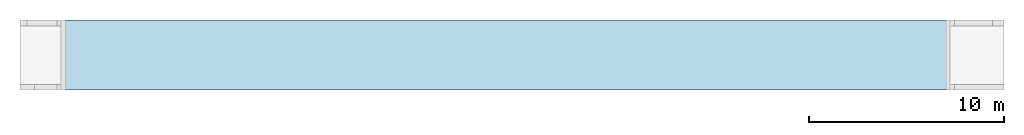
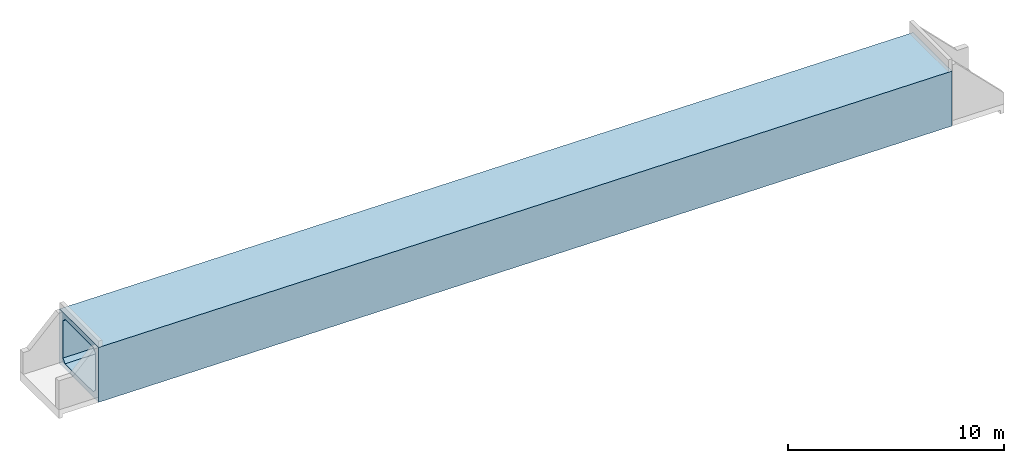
# One storey, part 2 of 2: 1 slab.
"""IFC2X3 building model written with IfcOpenShell, lengths in metres."""

from ifc_helpers import new_model, entity, si_unit, converted_unit, derived_unit, direction, frame, origin, place, context, subcontext, project, spatial, faceted_brep, material, type_object, element, save


model = new_model("IFC2X3")

# Units and contexts
model_context = context("Model", 3, precision=1e-05, world=origin(), true_north=direction((6.12303176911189e-17, 1.0)))
body_context = subcontext(model_context, "Body", "Model", "MODEL_VIEW")
ifc_project = project(units=[si_unit("LENGTHUNIT", "METRE"), si_unit("AREAUNIT", "SQUARE_METRE"), si_unit("VOLUMEUNIT", "CUBIC_METRE"), converted_unit("PLANEANGLEUNIT", "DEGREE", entity("IfcRatioMeasure", 0.0174532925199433), si_unit("PLANEANGLEUNIT", "RADIAN"), dimensions=[0, 0, 0, 0, 0, 0, 0]), si_unit("MASSUNIT", "GRAM", prefix="KILO"), derived_unit("MASSDENSITYUNIT", [(si_unit("MASSUNIT", "GRAM", prefix="KILO"), 1), (si_unit("LENGTHUNIT", "METRE"), -3)]), derived_unit("MOMENTOFINERTIAUNIT", [(si_unit("LENGTHUNIT", "METRE"), 4)]), si_unit("TIMEUNIT", "SECOND"), si_unit("FREQUENCYUNIT", "HERTZ"), si_unit("THERMODYNAMICTEMPERATUREUNIT", "DEGREE_CELSIUS"), derived_unit("THERMALTRANSMITTANCEUNIT", [(si_unit("MASSUNIT", "GRAM", prefix="KILO"), 1), (si_unit("THERMODYNAMICTEMPERATUREUNIT", "KELVIN"), -1), (si_unit("TIMEUNIT", "SECOND"), -3)]), derived_unit("VOLUMETRICFLOWRATEUNIT", [(si_unit("LENGTHUNIT", "METRE"), 3), (si_unit("TIMEUNIT", "SECOND"), -1)]), si_unit("ELECTRICCURRENTUNIT", "AMPERE"), si_unit("ELECTRICVOLTAGEUNIT", "VOLT"), si_unit("POWERUNIT", "WATT"), si_unit("FORCEUNIT", "NEWTON", prefix="KILO"), si_unit("ILLUMINANCEUNIT", "LUX"), si_unit("LUMINOUSFLUXUNIT", "LUMEN"), si_unit("LUMINOUSINTENSITYUNIT", "CANDELA"), derived_unit("USERDEFINED", [(si_unit("MASSUNIT", "GRAM", prefix="KILO"), -1), (si_unit("LENGTHUNIT", "METRE"), -2), (si_unit("TIMEUNIT", "SECOND"), 3), (si_unit("LUMINOUSFLUXUNIT", "LUMEN"), 1)]), derived_unit("LINEARVELOCITYUNIT", [(si_unit("LENGTHUNIT", "METRE"), 1), (si_unit("TIMEUNIT", "SECOND"), -1)]), si_unit("PRESSUREUNIT", "PASCAL"), derived_unit("USERDEFINED", [(si_unit("LENGTHUNIT", "METRE"), -2), (si_unit("MASSUNIT", "GRAM", prefix="KILO"), 1), (si_unit("TIMEUNIT", "SECOND"), -2)]), derived_unit("LINEARFORCEUNIT", [(si_unit("MASSUNIT", "GRAM", prefix="KILO"), 1), (si_unit("LENGTHUNIT", "METRE"), 1), (si_unit("TIMEUNIT", "SECOND"), -2), (si_unit("LENGTHUNIT", "METRE"), -1)]), derived_unit("PLANARFORCEUNIT", [(si_unit("MASSUNIT", "GRAM", prefix="KILO"), 1), (si_unit("LENGTHUNIT", "METRE"), 1), (si_unit("TIMEUNIT", "SECOND"), -2), (si_unit("LENGTHUNIT", "METRE"), -2)])], contexts=[model_context])

# Site, building, storey
site_placement = place(None, origin())
site = spatial("IfcSite", under=ifc_project, at=site_placement, Name="Default", CompositionType="ELEMENT")
building_placement = place(site_placement, origin())
building = spatial("IfcBuilding", under=site, at=building_placement, CompositionType="ELEMENT")
storey_placement = place(building_placement, frame((0.0, 0.0, 153.0)))
storey = spatial("IfcBuildingStorey", under=building, at=storey_placement, Name="Niveau 153", CompositionType="ELEMENT", Elevation=153.0)

# Slab
ifc_material = material(Name="Béton, C30/37")
slab_type = type_object("IfcSlabType", Name="Cadre:Cadre", PredefinedType="BASESLAB", material=ifc_material)
slab_placement = place(storey_placement, frame((-18.7, -1.79999999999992, 0.305999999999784)))
element("IfcSlab", 1, at=slab_placement, inside=storey, type_object=slab_type, Name="Cadre:Cadre", ObjectType="Cadre:Cadre", PredefinedType="BASESLAB", context=body_context, shape_type="Brep", body=[
    faceted_brep([(45.56, 0.0, 3.10000000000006), (45.56, 0.0, 0.0), (45.56, 3.6, 0.0), (45.56, 3.60000000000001, 3.10000000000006), (45.56, 0.500000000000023, 2.80000000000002), (45.56, 3.10000000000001, 2.80000000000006), (45.56, 3.3, 2.60000000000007), (45.56, 3.30000000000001, 0.500000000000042), (45.56, 3.10000000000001, 0.300000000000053), (45.56, 0.49999999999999, 0.300000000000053), (45.56, 0.300000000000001, 0.50000000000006), (45.56, 0.299999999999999, 2.60000000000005), (0.0, 0.0, 3.45200000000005), (0.0, 3.60000000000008, 3.45200000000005), (0.0, 3.60000000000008, 0.352000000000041), (0.0, 0.0, 0.352000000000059), (0.0, 3.10000000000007, 3.15200000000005), (0.0, 0.50000000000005, 3.15200000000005), (0.0, 0.300000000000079, 2.95200000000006), (0.0, 0.300000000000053, 0.852000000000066), (0.0, 0.500000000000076, 0.65200000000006), (0.0, 3.10000000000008, 0.652000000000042), (0.0, 3.30000000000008, 0.852000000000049), (0.0, 3.30000000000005, 2.95200000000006)], [[[0, 1, 2, 3], [4, 5, 6, 7, 8, 9, 10, 11]], [[12, 13, 14, 15], [16, 17, 18, 19, 20, 21, 22, 23]], [[1, 0, 12, 15]], [[2, 1, 15, 14]], [[3, 2, 14, 13]], [[0, 3, 13, 12]], [[16, 5, 4, 17]], [[17, 4, 11, 18]], [[18, 11, 10, 19]], [[19, 10, 9, 20]], [[20, 9, 8, 21]], [[21, 8, 7, 22]], [[22, 7, 6, 23]], [[5, 16, 23, 6]]]),
])

save(model, "model.ifc")
